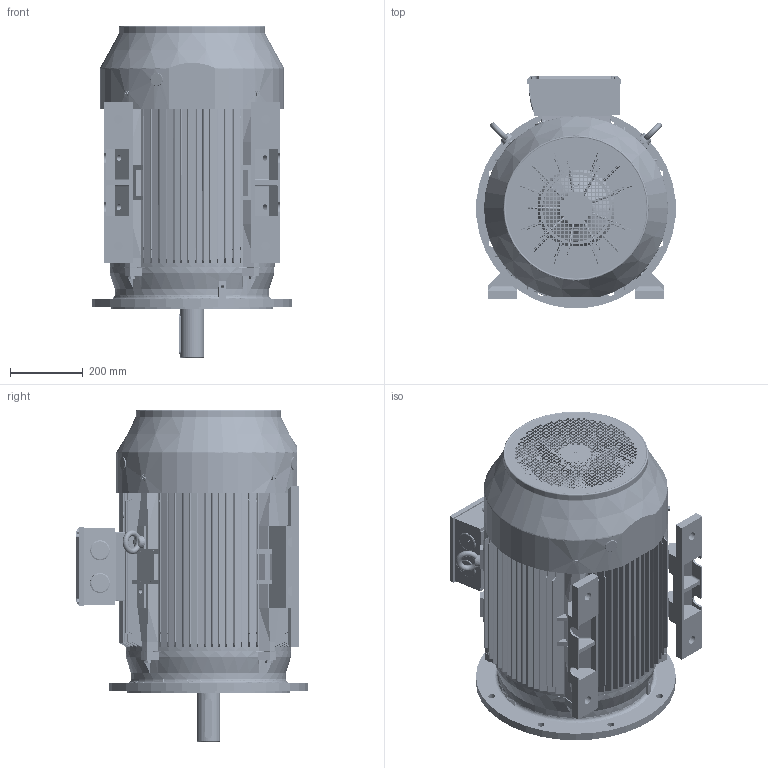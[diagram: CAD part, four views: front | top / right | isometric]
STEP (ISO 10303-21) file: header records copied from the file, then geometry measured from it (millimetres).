
FILE_DESCRIPTION (( 'STEP AP214' ), '1' );
FILE_NAME ('BCT3550.25D435.11.STEP', '2020-04-23T13:01:15', ( '' ), ( '' ), 'SwSTEP 2.0', 'SolidWorks 2019', '' );
FILE_SCHEMA (( 'AUTOMOTIVE_DESIGN' ));
Length unit declared in the file: millimetre
Products named in the file (1): BCT3550.25D435.11
Bounding box: 547.91 x 637.95 x 913.5 mm (x, y, z)
Volume: 28726250.6 mm3; surface area: 6222422.5 mm2
Topology: 48 solids, 49 shells, 9529 faces, 27586 edges, 18105 vertices
Faces by surface type: plane 4585, cylinder 3879, cone 358, bspline 316, torus 267, sphere 124
Entity records: 352908 total; most frequent: CARTESIAN_POINT 97246, ORIENTED_EDGE 54748, DIRECTION 52106, EDGE_CURVE 27374, VERTEX_POINT 18043, AXIS2_PLACEMENT_3D 17964, VECTOR 16178, LINE 16178
